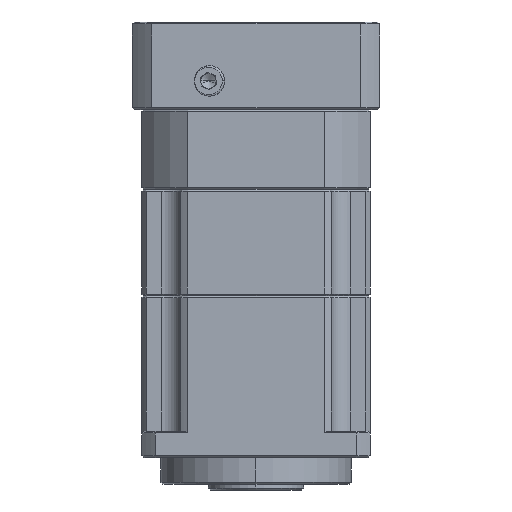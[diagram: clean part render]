
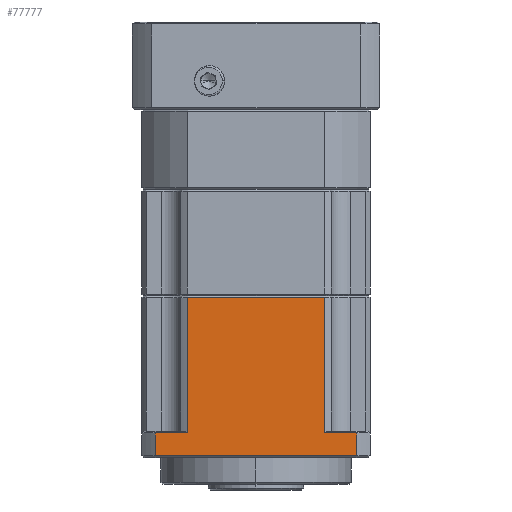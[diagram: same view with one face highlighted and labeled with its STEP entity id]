
A CAD part, left-side view. The second image highlights one B-rep face of the part: STEP entity #77777.
In plain terms, the highlighted planar face has unit normal (-1, 0, 0).
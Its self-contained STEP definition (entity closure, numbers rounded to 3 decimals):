
#634 = CARTESIAN_POINT ( 'NONE',  ( -79.878, -9.488, -75.236 ) ) ;
#1373 = DIRECTION ( 'NONE',  ( 1., 0., 0. ) ) ;
#1880 = LINE ( 'NONE', #52373, #58166 ) ;
#2340 = CARTESIAN_POINT ( 'NONE',  ( -79.878, -13.031, -69.236 ) ) ;
#2709 = EDGE_CURVE ( 'NONE', #101594, #19607, #25369, .T. ) ;
#3725 = EDGE_CURVE ( 'NONE', #67313, #13099, #79894, .T. ) ;
#7307 = EDGE_LOOP ( 'NONE', ( #110334, #43812, #30929, #54763, #89559, #99338, #49063, #97207 ) ) ;
#7777 = CARTESIAN_POINT ( 'NONE',  ( -79.878, -1.059, -69.236 ) ) ;
#8921 = CARTESIAN_POINT ( 'NONE',  ( -79.878, -13.031, -38.736 ) ) ;
#9270 = EDGE_CURVE ( 'NONE', #85906, #46758, #57846, .T. ) ;
#10213 = VECTOR ( 'NONE', #54189, 1000. ) ;
#11009 = DIRECTION ( 'NONE',  ( 0., -1., 0. ) ) ;
#13099 = VERTEX_POINT ( 'NONE', #98360 ) ;
#16987 = DIRECTION ( 'NONE',  ( 0., -1., 0. ) ) ;
#18618 = DIRECTION ( 'NONE',  ( 0., 0., -1. ) ) ;
#18989 = DIRECTION ( 'NONE',  ( 0., 1., 0. ) ) ;
#19607 = VERTEX_POINT ( 'NONE', #55751 ) ;
#20475 = CARTESIAN_POINT ( 'NONE',  ( -79.878, -1.059, -33.736 ) ) ;
#20701 = CARTESIAN_POINT ( 'NONE',  ( -79.878, -9.488, -38.736 ) ) ;
#23811 = EDGE_CURVE ( 'NONE', #58307, #101594, #27588, .T. ) ;
#24835 = CARTESIAN_POINT ( 'NONE',  ( -79.878, 16.969, -33.736 ) ) ;
#25369 = LINE ( 'NONE', #2340, #78927 ) ;
#27588 = LINE ( 'NONE', #105061, #10213 ) ;
#28003 = CARTESIAN_POINT ( 'NONE',  ( -79.878, 34.997, -33.736 ) ) ;
#29701 = EDGE_CURVE ( 'NONE', #46758, #58307, #59164, .T. ) ;
#30929 = ORIENTED_EDGE ( 'NONE', *, *, #93767, .F. ) ;
#35545 = CARTESIAN_POINT ( 'NONE',  ( -79.878, -13.031, -69.236 ) ) ;
#36197 = PLANE ( 'NONE',  #42695 ) ;
#37686 = LINE ( 'NONE', #20701, #61862 ) ;
#41809 = VECTOR ( 'NONE', #16987, 1000. ) ;
#42695 = AXIS2_PLACEMENT_3D ( 'NONE', #8921, #1373, #18618 ) ;
#43812 = ORIENTED_EDGE ( 'NONE', *, *, #9270, .F. ) ;
#45205 = EDGE_CURVE ( 'NONE', #13099, #54669, #1880, .T. ) ;
#46758 = VERTEX_POINT ( 'NONE', #28003 ) ;
#49063 = ORIENTED_EDGE ( 'NONE', *, *, #2709, .F. ) ;
#52373 = CARTESIAN_POINT ( 'NONE',  ( -79.878, 43.427, -38.736 ) ) ;
#52663 = VECTOR ( 'NONE', #96105, 1000. ) ;
#54189 = DIRECTION ( 'NONE',  ( 0., 0., -1. ) ) ;
#54467 = VECTOR ( 'NONE', #18989, 1000. ) ;
#54669 = VERTEX_POINT ( 'NONE', #72655 ) ;
#54763 = ORIENTED_EDGE ( 'NONE', *, *, #45205, .F. ) ;
#55182 = VECTOR ( 'NONE', #103195, 1000. ) ;
#55751 = CARTESIAN_POINT ( 'NONE',  ( -79.878, -9.488, -69.236 ) ) ;
#56147 = CARTESIAN_POINT ( 'NONE',  ( -79.878, 34.997, -69.236 ) ) ;
#57846 = LINE ( 'NONE', #77771, #55182 ) ;
#58166 = VECTOR ( 'NONE', #88544, 1000. ) ;
#58307 = VERTEX_POINT ( 'NONE', #20475 ) ;
#59164 = LINE ( 'NONE', #24835, #41809 ) ;
#61862 = VECTOR ( 'NONE', #80169, 1000. ) ;
#67313 = VERTEX_POINT ( 'NONE', #634 ) ;
#68046 = EDGE_CURVE ( 'NONE', #19607, #67313, #37686, .T. ) ;
#72655 = CARTESIAN_POINT ( 'NONE',  ( -79.878, 43.427, -69.236 ) ) ;
#77771 = CARTESIAN_POINT ( 'NONE',  ( -79.878, 34.997, -38.736 ) ) ;
#77777 = ADVANCED_FACE ( 'NONE', ( #77778 ), #36197, .F. ) ;
#77778 = FACE_OUTER_BOUND ( 'NONE', #7307, .T. ) ;
#78833 = CARTESIAN_POINT ( 'NONE',  ( -79.878, -13.031, -75.236 ) ) ;
#78927 = VECTOR ( 'NONE', #11009, 1000. ) ;
#79894 = LINE ( 'NONE', #78833, #54467 ) ;
#80169 = DIRECTION ( 'NONE',  ( 0., 0., -1. ) ) ;
#82109 = LINE ( 'NONE', #35545, #52663 ) ;
#85906 = VERTEX_POINT ( 'NONE', #56147 ) ;
#88544 = DIRECTION ( 'NONE',  ( 0., 0., 1. ) ) ;
#89559 = ORIENTED_EDGE ( 'NONE', *, *, #3725, .F. ) ;
#93767 = EDGE_CURVE ( 'NONE', #54669, #85906, #82109, .T. ) ;
#96105 = DIRECTION ( 'NONE',  ( 0., -1., 0. ) ) ;
#97207 = ORIENTED_EDGE ( 'NONE', *, *, #23811, .F. ) ;
#98360 = CARTESIAN_POINT ( 'NONE',  ( -79.878, 43.427, -75.236 ) ) ;
#99338 = ORIENTED_EDGE ( 'NONE', *, *, #68046, .F. ) ;
#101594 = VERTEX_POINT ( 'NONE', #7777 ) ;
#103195 = DIRECTION ( 'NONE',  ( 0., 0., 1. ) ) ;
#105061 = CARTESIAN_POINT ( 'NONE',  ( -79.878, -1.059, -38.736 ) ) ;
#110334 = ORIENTED_EDGE ( 'NONE', *, *, #29701, .F. ) ;
